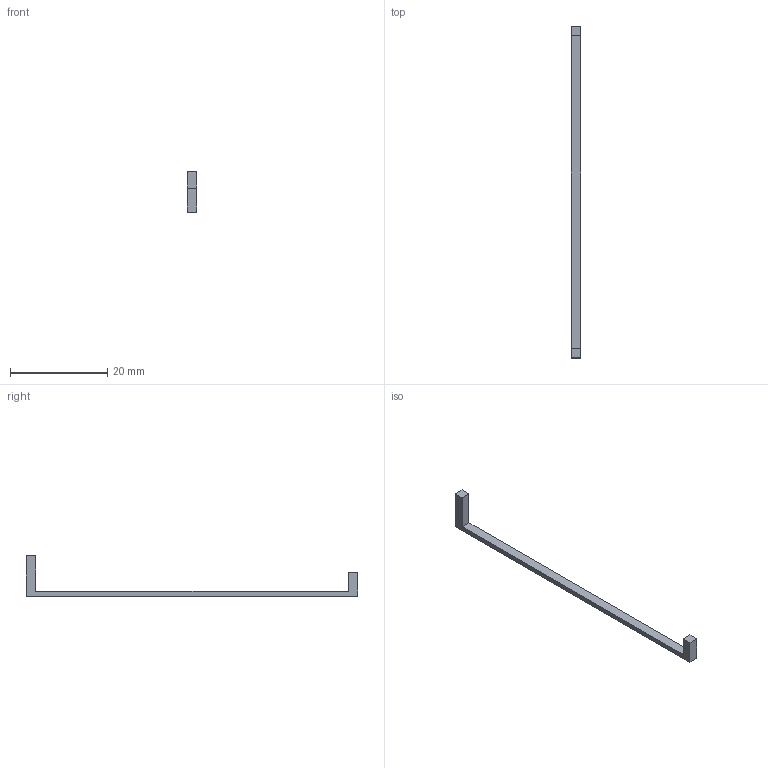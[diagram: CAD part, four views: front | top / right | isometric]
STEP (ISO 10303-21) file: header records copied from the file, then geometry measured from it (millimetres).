
FILE_DESCRIPTION(('Open CASCADE Model'),'2;1');
FILE_NAME('Open CASCADE Shape Model','2026-09-08T13:32:10',('Author'),( 'Open CASCADE'),'Open CASCADE STEP processor 7.7','Open CASCADE 7.7' ,'Unknown');
FILE_SCHEMA(('AUTOMOTIVE_DESIGN { 1 0 10303 214 1 1 1 1 }'));
Length unit declared in the file: millimetre
Products named in the file (1): Open CASCADE STEP translator 7.7 43
Bounding box: 2 x 68.1 x 8.3 mm (x, y, z)
Volume: 181 mm3; surface area: 502.2 mm2
Topology: 1 solids, 1 shells, 10 faces, 24 edges, 16 vertices
Faces by surface type: plane 10
Entity records: 610 total; most frequent: CARTESIAN_POINT 99, DIRECTION 94, LINE 72, VECTOR 72, ORIENTED_EDGE 48, PCURVE 48, DEFINITIONAL_REPRESENTATION 48, EDGE_CURVE 24
